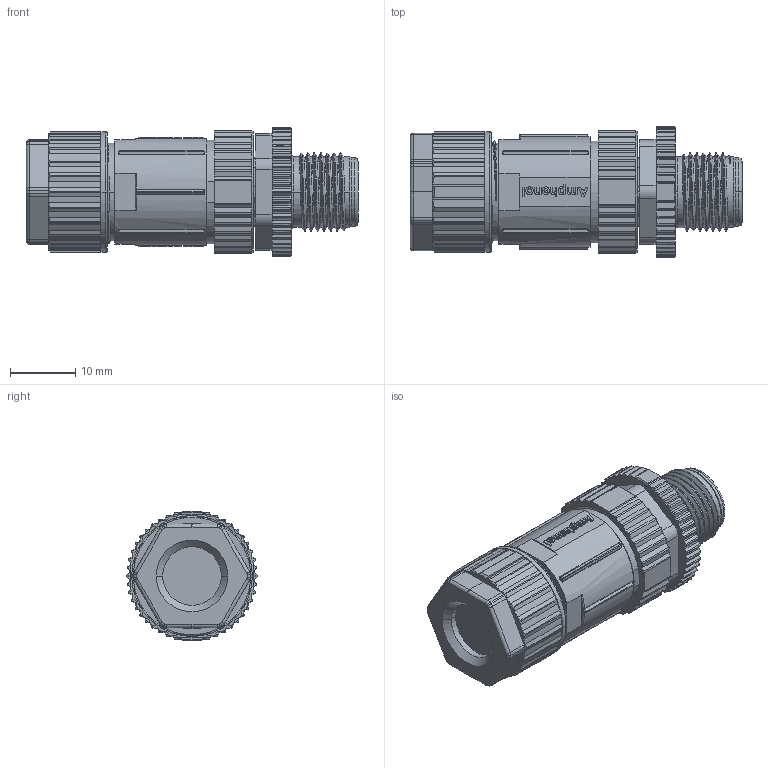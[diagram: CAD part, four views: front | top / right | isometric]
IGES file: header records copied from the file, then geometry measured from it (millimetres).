
Start section:  PTC IGES file: HPC-05BMMB-SL7001.igs
Global section: file name: HPC-05BMMB-SL7001.igs; native system: Creo Parametric by Parametric Technology Corporation; preprocessor: 2013050; author: ks8813; organization: Unknown; date: 20170713.174914; units: millimetre
Bounding box: 51 x 20.09 x 19.93 mm (x, y, z)
Volume: 10099.4 mm3; surface area: 7145.5 mm2
Topology: 1 solids, 2 shells, 1468 faces, 4004 edges, 2578 vertices
Faces by surface type: bspline 692, revolution 640, extrusion 136
